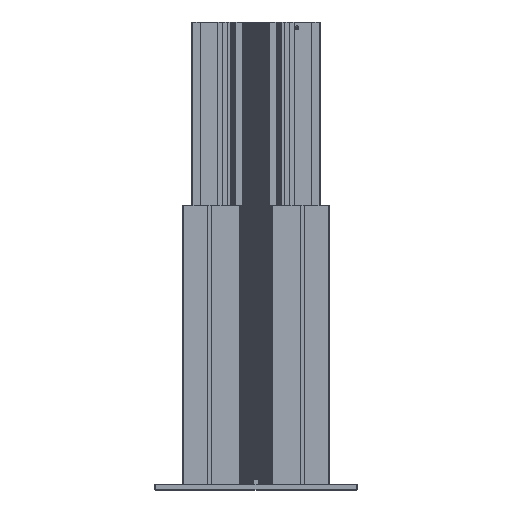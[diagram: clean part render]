
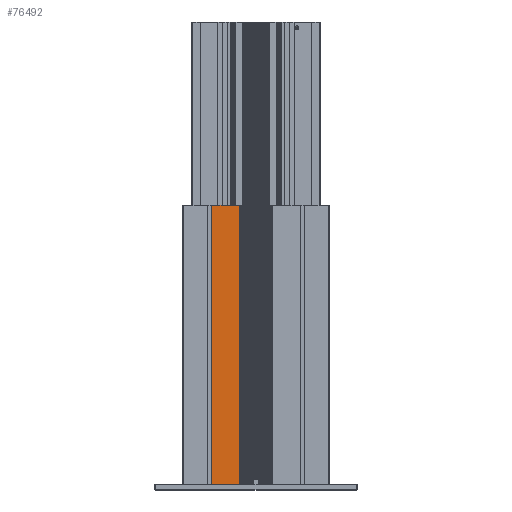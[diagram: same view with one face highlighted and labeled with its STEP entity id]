
A CAD part, top view. The second image highlights one B-rep face of the part: STEP entity #76492.
In plain terms, the highlighted planar face has unit normal (0, 0, 1).
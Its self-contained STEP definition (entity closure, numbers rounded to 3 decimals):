
#3907 = VECTOR ( 'NONE', #28539, 1000. ) ;
#6656 = VERTEX_POINT ( 'NONE', #9934 ) ;
#7766 = LINE ( 'NONE', #71871, #70966 ) ;
#9050 = CARTESIAN_POINT ( 'NONE',  ( 29.2, 495., 30. ) ) ;
#9119 = EDGE_LOOP ( 'NONE', ( #20368, #17133, #78593, #65980 ) ) ;
#9934 = CARTESIAN_POINT ( 'NONE',  ( 29.2, 0., 30. ) ) ;
#17133 = ORIENTED_EDGE ( 'NONE', *, *, #33805, .F. ) ;
#17288 = LINE ( 'NONE', #61716, #47949 ) ;
#18666 = DIRECTION ( 'NONE',  ( 1., 0., 0. ) ) ;
#20368 = ORIENTED_EDGE ( 'NONE', *, *, #34080, .T. ) ;
#21300 = PLANE ( 'NONE',  #38973 ) ;
#21906 = CARTESIAN_POINT ( 'NONE',  ( 78.5, 0., 30. ) ) ;
#27441 = DIRECTION ( 'NONE',  ( 0., 0., 1. ) ) ;
#28066 = VECTOR ( 'NONE', #18666, 1000. ) ;
#28539 = DIRECTION ( 'NONE',  ( 1., 0., 0. ) ) ;
#28922 = VERTEX_POINT ( 'NONE', #45346 ) ;
#29069 = DIRECTION ( 'NONE',  ( 0., -1., 0. ) ) ;
#33805 = EDGE_CURVE ( 'NONE', #64593, #28922, #60451, .T. ) ;
#34080 = EDGE_CURVE ( 'NONE', #64610, #28922, #17288, .T. ) ;
#37136 = CARTESIAN_POINT ( 'NONE',  ( -78.5, 0., 30. ) ) ;
#38973 = AXIS2_PLACEMENT_3D ( 'NONE', #64089, #27441, #70252 ) ;
#45346 = CARTESIAN_POINT ( 'NONE',  ( 78.5, 495., 30. ) ) ;
#47933 = FACE_OUTER_BOUND ( 'NONE', #9119, .T. ) ;
#47949 = VECTOR ( 'NONE', #74010, 1000. ) ;
#59080 = CARTESIAN_POINT ( 'NONE',  ( 123.5, 495., 30. ) ) ;
#60451 = LINE ( 'NONE', #59080, #3907 ) ;
#61716 = CARTESIAN_POINT ( 'NONE',  ( 78.5, 495., 30. ) ) ;
#62568 = LINE ( 'NONE', #37136, #28066 ) ;
#64089 = CARTESIAN_POINT ( 'NONE',  ( -78.5, 495., 30. ) ) ;
#64593 = VERTEX_POINT ( 'NONE', #9050 ) ;
#64610 = VERTEX_POINT ( 'NONE', #21906 ) ;
#65980 = ORIENTED_EDGE ( 'NONE', *, *, #74076, .T. ) ;
#69763 = EDGE_CURVE ( 'NONE', #64593, #6656, #7766, .T. ) ;
#70252 = DIRECTION ( 'NONE',  ( 1., 0., 0. ) ) ;
#70966 = VECTOR ( 'NONE', #29069, 1000. ) ;
#71871 = CARTESIAN_POINT ( 'NONE',  ( 29.2, 495., 30. ) ) ;
#74010 = DIRECTION ( 'NONE',  ( 0., 1., 0. ) ) ;
#74076 = EDGE_CURVE ( 'NONE', #6656, #64610, #62568, .T. ) ;
#76492 = ADVANCED_FACE ( 'NONE', ( #47933 ), #21300, .T. ) ;
#78593 = ORIENTED_EDGE ( 'NONE', *, *, #69763, .T. ) ;
